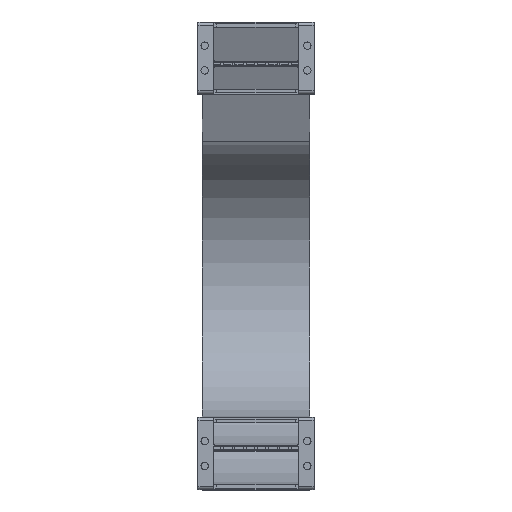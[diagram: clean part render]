
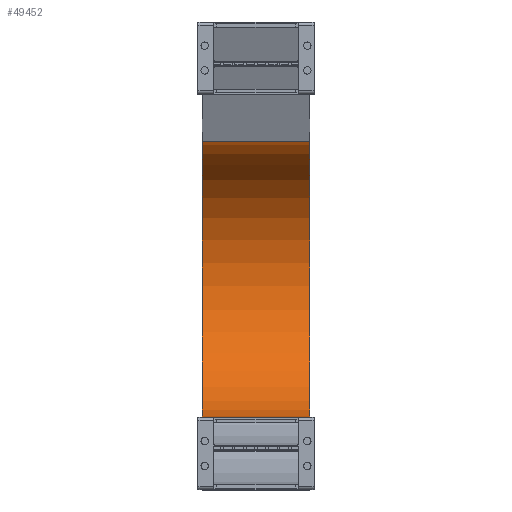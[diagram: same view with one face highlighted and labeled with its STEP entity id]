
A CAD part, top view. The second image highlights one B-rep face of the part: STEP entity #49452.
In plain terms, the highlighted cylindrical face has radius 123 mm (diameter 246 mm), a partial arc.
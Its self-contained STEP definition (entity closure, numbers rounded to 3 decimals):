
#48604=DIRECTION('',(-1.,0.,0.));
#48605=VECTOR('',#48604,95.);
#48606=CARTESIAN_POINT('',(47.5,64.,-500.));
#48607=LINE('',#48606,#48605);
#48618=DIRECTION('',(-1.,0.,0.));
#48619=VECTOR('',#48618,95.);
#48620=CARTESIAN_POINT('',(47.5,309.382,-512.314));
#48621=LINE('',#48620,#48619);
#48625=CARTESIAN_POINT('',(47.5,187.,-500.));
#48626=DIRECTION('',(-1.,0.,0.));
#48627=DIRECTION('',(0.,0.995,-0.1));
#48628=AXIS2_PLACEMENT_3D('',#48625,#48626,#48627);
#48704=CARTESIAN_POINT('',(-47.5,187.,-500.));
#48705=DIRECTION('',(-1.,0.,0.));
#48706=DIRECTION('',(0.,0.995,-0.1));
#48707=AXIS2_PLACEMENT_3D('',#48704,#48705,#48706);
#48826=CARTESIAN_POINT('',(47.5,309.382,-512.314));
#48827=CARTESIAN_POINT('',(-47.5,309.382,-512.314));
#48828=VERTEX_POINT('',#48826);
#48829=VERTEX_POINT('',#48827);
#48850=CARTESIAN_POINT('',(47.5,64.,-500.));
#48851=CARTESIAN_POINT('',(-47.5,64.,-500.));
#48852=VERTEX_POINT('',#48850);
#48853=VERTEX_POINT('',#48851);
#49438=CARTESIAN_POINT('',(1.,187.,-500.));
#49439=DIRECTION('',(-1.,0.,0.));
#49440=DIRECTION('',(0.,-0.995,0.1));
#49441=AXIS2_PLACEMENT_3D('',#49438,#49439,#49440);
#49442=CYLINDRICAL_SURFACE('',#49441,123.);
#49444=ORIENTED_EDGE('',*,*,#49443,.F.);
#49446=ORIENTED_EDGE('',*,*,#49445,.T.);
#49447=ORIENTED_EDGE('',*,*,#49421,.T.);
#49449=ORIENTED_EDGE('',*,*,#49448,.F.);
#49450=EDGE_LOOP('',(#49444,#49446,#49447,#49449));
#49451=FACE_OUTER_BOUND('',#49450,.F.);
#48629=CIRCLE('',#48628,123.);
#48708=CIRCLE('',#48707,123.);
#49421=EDGE_CURVE('',#48852,#48853,#48607,.T.);
#49443=EDGE_CURVE('',#48828,#48829,#48621,.T.);
#49445=EDGE_CURVE('',#48828,#48852,#48629,.T.);
#49448=EDGE_CURVE('',#48829,#48853,#48708,.T.);
#49452=ADVANCED_FACE('',(#49451),#49442,.F.);
